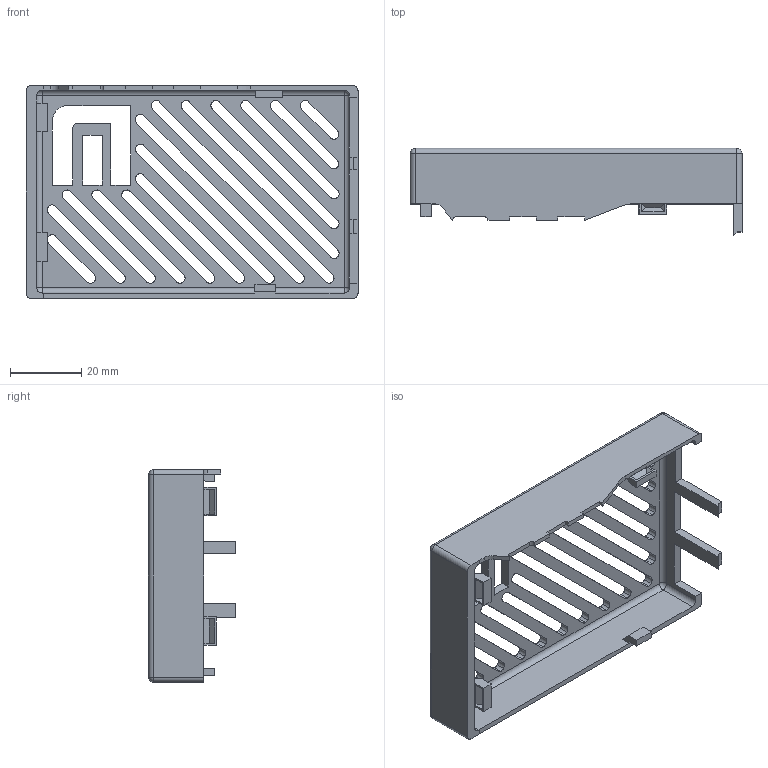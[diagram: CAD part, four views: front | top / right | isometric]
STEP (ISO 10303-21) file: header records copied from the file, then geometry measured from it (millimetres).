
FILE_DESCRIPTION(/* description */ (''),/* implementation_level */ '2;1');
FILE_NAME(/* name */ 'Top.step',/* time_stamp */ '2024-01-19T15:06:36-05:00',/* author */ (''),/* organization */ (''),/* preprocessor_version */ 'ST-DEVELOPER v20',/* originating_system */ 'Autodesk Translation Framework v12.14.0.127',/* authorisation */ '');
FILE_SCHEMA (('AUTOMOTIVE_DESIGN { 1 0 10303 214 3 1 1 }'));
Length unit declared in the file: millimetre
Products named in the file (2): PiWu; V2
Assembly tree (1 placements, depth 2):
  PiWu
    V2
Bounding box: 93.1 x 24.4 x 59.65 mm (x, y, z)
Volume: 16007.3 mm3; surface area: 19004.2 mm2
Topology: 1 solids, 1 shells, 227 faces, 635 edges, 412 vertices
Faces by surface type: plane 125, bspline 74, cylinder 20, sphere 8
Entity records: 7576 total; most frequent: CARTESIAN_POINT 2274, ORIENTED_EDGE 1270, DIRECTION 839, EDGE_CURVE 635, LINE 447, VECTOR 447, VERTEX_POINT 412, EDGE_LOOP 261
